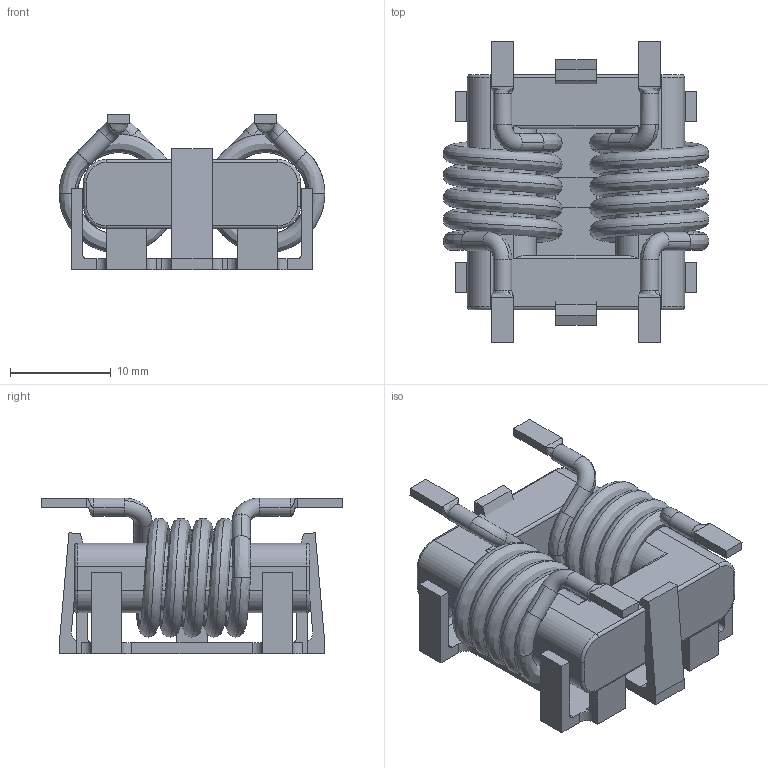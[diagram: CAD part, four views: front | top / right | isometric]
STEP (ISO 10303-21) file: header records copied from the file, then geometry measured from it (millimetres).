
FILE_DESCRIPTION (( 'STEP AP214' ), '1' );
FILE_NAME ('成品线圈3D图-SMD-0766-700.STEP', '2025-08-22T11:07:19', ( '微软用户' ), ( '微软中国' ), 'SwSTEP 2.0', 'SolidWorks 2018', '' );
FILE_SCHEMA (( 'AUTOMOTIVE_DESIGN' ));
Length unit declared in the file: millimetre
Products named in the file (3): 嘎殤; 线圈3D图-SMD-0766-700; 成品线圈3D图-SMD-0766-700
Assembly tree (2 placements, depth 2):
  成品线圈3D图-SMD-0766-700
    线圈3D图-SMD-0766-700
    嘎殤
Bounding box: 26.43 x 29.91 x 15.51 mm (x, y, z)
Volume: 4287.5 mm3; surface area: 5230.5 mm2
Topology: 10 solids, 10 shells, 217 faces, 562 edges, 366 vertices
Faces by surface type: plane 111, cylinder 62, bspline 28, torus 16
Entity records: 12450 total; most frequent: CARTESIAN_POINT 4673, ORIENTED_EDGE 1124, DIRECTION 1044, EDGE_CURVE 562, VERTEX_POINT 366, AXIS2_PLACEMENT_3D 354, VECTOR 336, LINE 336
